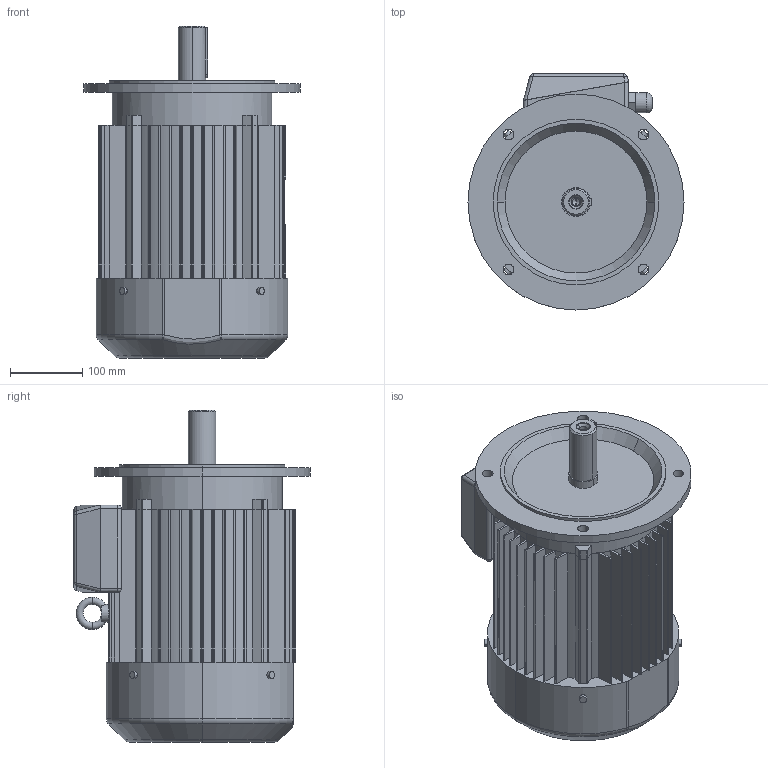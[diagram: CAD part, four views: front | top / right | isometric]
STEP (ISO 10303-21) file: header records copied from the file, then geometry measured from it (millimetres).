
FILE_DESCRIPTION (( 'STEP AP203' ), '1' );
FILE_NAME ('2SIEK132S2A,6.STEP', '2012-10-29T07:52:13', ( 'INDUKTA' ), ( 'CANTONI MOTOR' ), 'SwSTEP 2.0', 'SolidWorks 2003064', '' );
FILE_SCHEMA (( 'CONFIG_CONTROL_DESIGN' ));
Length unit declared in the file: millimetre
Products named in the file (1): 2SIEK132S2A,6
Bounding box: 300 x 328 x 461 mm (x, y, z)
Volume: 18215654.8 mm3; surface area: 993907.3 mm2
Topology: 12 solids, 12 shells, 385 faces, 1028 edges, 654 vertices
Faces by surface type: cylinder 181, plane 166, cone 14, torus 13, sphere 10, bspline 1
Entity records: 12805 total; most frequent: CARTESIAN_POINT 2922, DIRECTION 2149, ORIENTED_EDGE 2032, EDGE_CURVE 1016, AXIS2_PLACEMENT_3D 785, VERTEX_POINT 654, LINE 579, VECTOR 579
